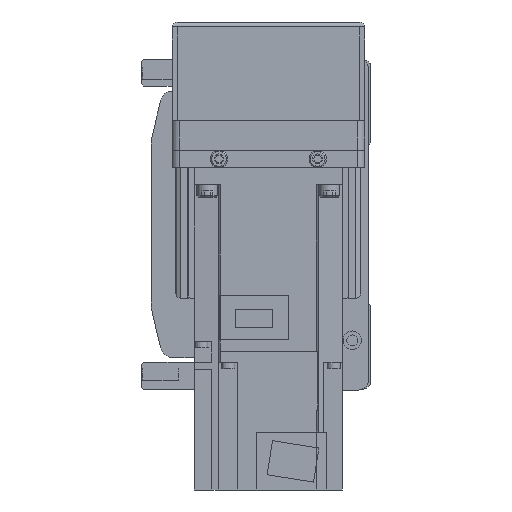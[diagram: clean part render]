
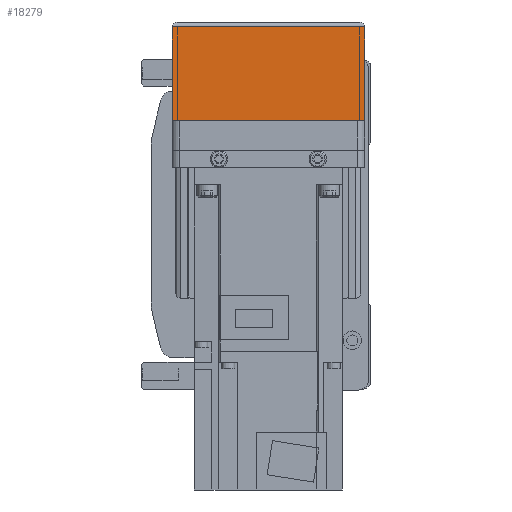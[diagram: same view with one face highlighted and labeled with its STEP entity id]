
A CAD part, left-side view. The second image highlights one B-rep face of the part: STEP entity #18279.
In plain terms, the highlighted planar face has unit normal (-1, 0, 0).
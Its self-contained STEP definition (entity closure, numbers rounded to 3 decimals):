
#2720=ORIENTED_EDGE('',*,*,#7353,.F.);
#2721=ORIENTED_EDGE('',*,*,#7354,.F.);
#2722=ORIENTED_EDGE('',*,*,#7355,.T.);
#2723=ORIENTED_EDGE('',*,*,#7356,.F.);
#7353=EDGE_CURVE('',#9768,#9759,#11657,.T.);
#7354=EDGE_CURVE('',#9785,#9768,#11658,.T.);
#7355=EDGE_CURVE('',#9785,#9786,#11659,.T.);
#7356=EDGE_CURVE('',#9759,#9786,#11660,.T.);
#9759=VERTEX_POINT('',#28052);
#9768=VERTEX_POINT('',#28070);
#9785=VERTEX_POINT('',#28118);
#9786=VERTEX_POINT('',#28120);
#11657=LINE('',#28116,#13317);
#11658=LINE('',#28117,#13318);
#11659=LINE('',#28119,#13319);
#11660=LINE('',#28121,#13320);
#13317=VECTOR('',#22501,1000.);
#13318=VECTOR('',#22502,1000.);
#13319=VECTOR('',#22503,1000.);
#13320=VECTOR('',#22504,1000.);
#14809=EDGE_LOOP('',(#2720,#2721,#2722,#2723));
#16249=FACE_BOUND('',#14809,.T.);
#17530=PLANE('',#19585);
#18279=ADVANCED_FACE('',(#16249),#17530,.F.);
#19585=AXIS2_PLACEMENT_3D('',#28115,#22499,#22500);
#22499=DIRECTION('',(1.,0.,0.));
#22500=DIRECTION('',(0.,0.,-1.));
#22501=DIRECTION('',(0.,-1.,0.));
#22502=DIRECTION('',(0.,0.,1.));
#22503=DIRECTION('',(0.,-1.,0.));
#22504=DIRECTION('',(0.,0.,-1.));
#28052=CARTESIAN_POINT('',(-158.,-39.,-12.1));
#28070=CARTESIAN_POINT('',(-158.,39.,-12.1));
#28115=CARTESIAN_POINT('',(-158.,36.,7.));
#28116=CARTESIAN_POINT('',(-158.,50.,-12.1));
#28117=CARTESIAN_POINT('',(-158.,39.,-50.));
#28118=CARTESIAN_POINT('',(-158.,39.,-50.));
#28119=CARTESIAN_POINT('',(-158.,40.,-50.));
#28120=CARTESIAN_POINT('',(-158.,-39.,-50.));
#28121=CARTESIAN_POINT('',(-158.,-39.,-12.1));
